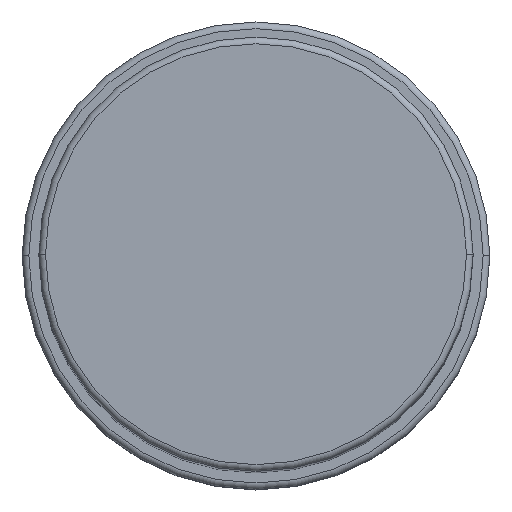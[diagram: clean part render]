
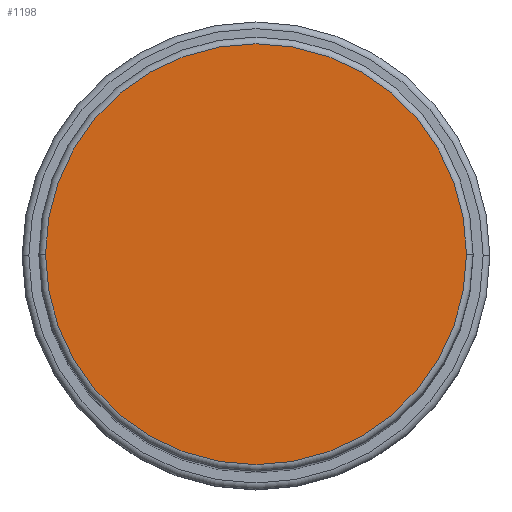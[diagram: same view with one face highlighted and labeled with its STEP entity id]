
A CAD part, top view. The second image highlights one B-rep face of the part: STEP entity #1198.
In plain terms, the highlighted planar face has unit normal (0, 0, 1).
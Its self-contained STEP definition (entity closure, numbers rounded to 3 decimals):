
#73 = AXIS2_PLACEMENT_3D ( 'NONE', #89, #1566, #1039 ) ;
#89 = CARTESIAN_POINT ( 'NONE',  ( 0., 0., 153. ) ) ;
#170 = EDGE_CURVE ( 'NONE', #1656, #1669, #536, .T. ) ;
#304 = ORIENTED_EDGE ( 'NONE', *, *, #170, .T. ) ;
#308 = DIRECTION ( 'NONE',  ( 1., 0., 0. ) ) ;
#353 = EDGE_CURVE ( 'NONE', #1669, #1656, #792, .T. ) ;
#407 = PLANE ( 'NONE',  #440 ) ;
#440 = AXIS2_PLACEMENT_3D ( 'NONE', #934, #679, #1209 ) ;
#536 = CIRCLE ( 'NONE', #649, 31.5 ) ;
#649 = AXIS2_PLACEMENT_3D ( 'NONE', #1395, #1268, #308 ) ;
#679 = DIRECTION ( 'NONE',  ( 0., 0., 1. ) ) ;
#792 = CIRCLE ( 'NONE', #73, 31.5 ) ;
#934 = CARTESIAN_POINT ( 'NONE',  ( 0., 0., 153. ) ) ;
#943 = CARTESIAN_POINT ( 'NONE',  ( 31.5, 0., 153. ) ) ;
#1039 = DIRECTION ( 'NONE',  ( 1., 0., 0. ) ) ;
#1198 = ADVANCED_FACE ( 'NONE', ( #1282 ), #407, .T. ) ;
#1209 = DIRECTION ( 'NONE',  ( 1., 0., 0. ) ) ;
#1268 = DIRECTION ( 'NONE',  ( 0., 0., 1. ) ) ;
#1282 = FACE_OUTER_BOUND ( 'NONE', #1298, .T. ) ;
#1298 = EDGE_LOOP ( 'NONE', ( #304, #1379 ) ) ;
#1379 = ORIENTED_EDGE ( 'NONE', *, *, #353, .T. ) ;
#1395 = CARTESIAN_POINT ( 'NONE',  ( 0., 0., 153. ) ) ;
#1483 = CARTESIAN_POINT ( 'NONE',  ( -31.5, 0., 153. ) ) ;
#1566 = DIRECTION ( 'NONE',  ( 0., 0., 1. ) ) ;
#1656 = VERTEX_POINT ( 'NONE', #943 ) ;
#1669 = VERTEX_POINT ( 'NONE', #1483 ) ;
